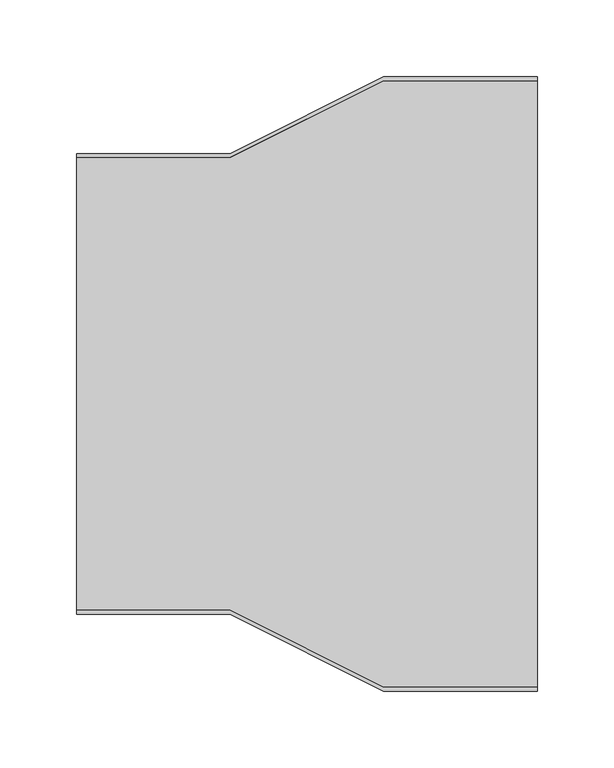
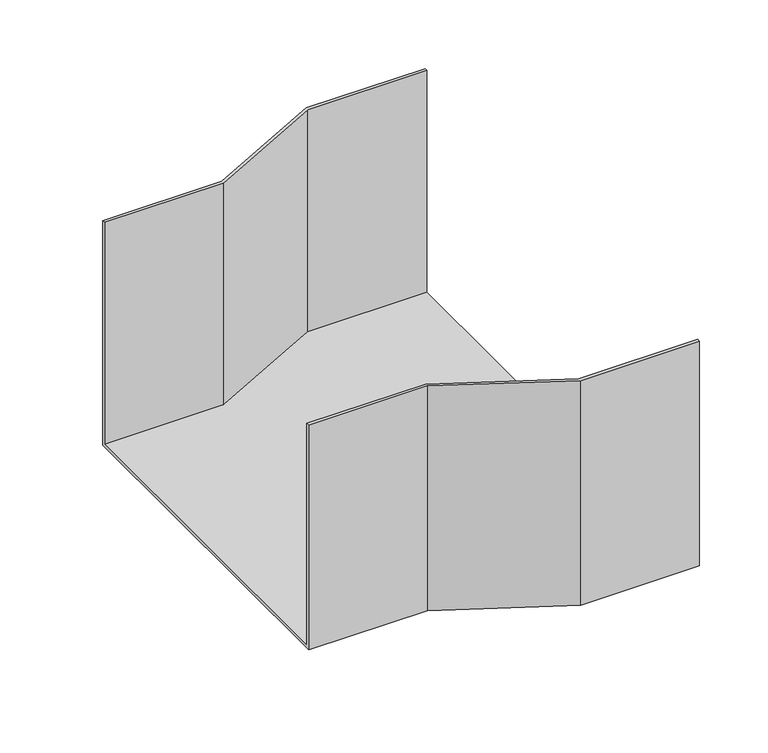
"""IFC4 building model written with IfcOpenShell, lengths in millimetres: cable carrier fitting geometry, BAKS_Reduction-symmetrical_RKZ : RKZCH200."""

from ifc_helpers import new_model, si_unit, origin, place, context, project, spatial, faceted_brep, source, transform, mapped, element, save


def cable_carrier_fitting_cb4cf4fc(model_context):
    return source(origin(), model_context, "Body", "Brep", [
        faceted_brep([(0.0, -150.0, -100.0), (0.0, -150.0, 100.0), (0.0, -147.46, 100.0), (0.0, -147.46, -97.46), (0.0, 147.46, -97.46), (0.0, 147.46, 100.0), (0.0, 150.0, 100.0), (0.0, 150.0, -100.0), (300.0, -200.0, -100.0), (300.0, 200.0, -100.0), (300.0, 200.0, 100.0), (300.0, 197.46, 100.0), (300.0, 197.46, -97.46), (300.0, -197.46, -97.46), (300.0, -197.46, 100.0), (300.0, -200.0, 100.0), (100.0, -150.0, -100.0), (100.0, -150.0, 100.0), (200.0, -200.0, 100.0), (200.0, -197.46, 100.0), (100.0, -147.46, 100.0), (100.0, -147.46, -97.46), (200.0, -197.46, -97.46), (200.0, 197.46, -97.46), (100.0, 147.46, -97.46), (100.0, 147.46, 100.0), (200.0, 197.46, 100.0), (200.0, 200.0, 100.0), (100.0, 150.0, 100.0), (100.0, 150.0, -100.0), (200.0, 200.0, -100.0), (200.0, -200.0, -100.0)], [[[0, 1, 2, 3, 4, 5, 6, 7]], [[8, 9, 10, 11, 12, 13, 14, 15]], [[1, 0, 16, 17]], [[2, 1, 17, 18, 15, 14, 19, 20]], [[3, 2, 20, 21]], [[4, 3, 21, 22, 13, 12, 23, 24]], [[5, 4, 24, 25]], [[6, 5, 25, 26, 11, 10, 27, 28]], [[7, 6, 28, 29]], [[0, 7, 29, 30, 9, 8, 31, 16]], [[8, 15, 18, 31]], [[14, 13, 22, 19]], [[12, 11, 26, 23]], [[10, 9, 30, 27]], [[30, 29, 28, 27]], [[26, 25, 24, 23]], [[22, 21, 20, 19]], [[16, 31, 18, 17]]]),
    ])


if __name__ == "__main__":
    model = new_model("IFC4")
    model_context = context("Model", 3, world=origin())
    ifc_project = project(units=[si_unit("LENGTHUNIT", "METRE", prefix="MILLI")], contexts=[model_context])
    site = spatial("IfcSite", under=ifc_project)
    building = spatial("IfcBuilding", under=site)
    placement = place(None, origin())
    cable_carrier_fitting_shape = cable_carrier_fitting_cb4cf4fc(model_context)
    element("IfcCableCarrierFitting", 1, ObjectType="BAKS_Reduction-symmetrical_RKZ : RKZCH200", at=placement, inside=building, context=model_context, shape_type="MappedRepresentation", body=[
        mapped(cable_carrier_fitting_shape, transform((0.0, 0.0, 0.0), x_axis=(1.0, 0.0, 0.0), y_axis=(0.0, 1.0, 0.0), z_axis=(0.0, 0.0, 1.0))),
    ])
    save(model, "model.ifc")
